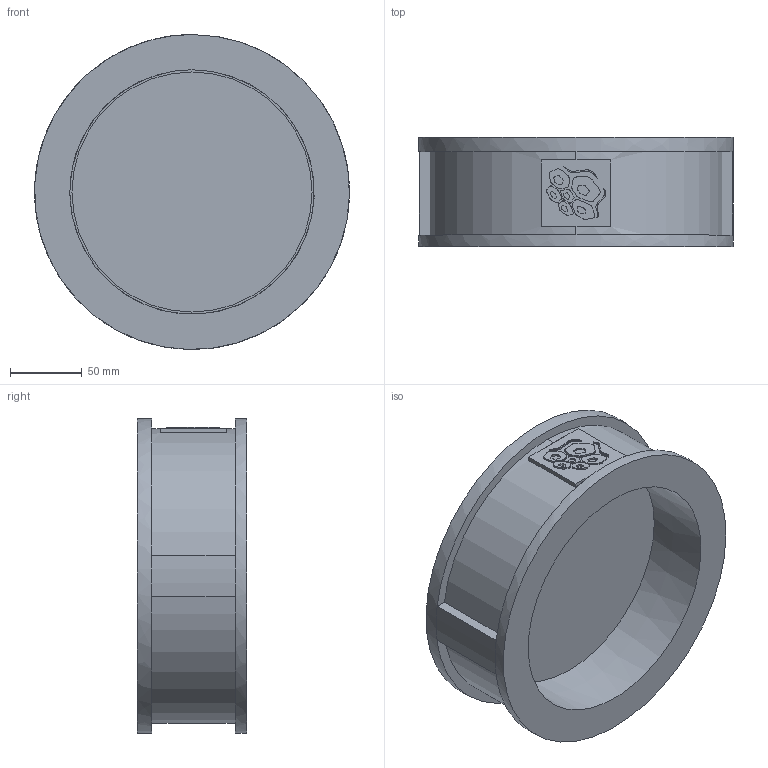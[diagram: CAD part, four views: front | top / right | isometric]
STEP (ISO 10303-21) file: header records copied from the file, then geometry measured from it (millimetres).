
FILE_DESCRIPTION(('STEP AP203'), '1');
FILE_NAME('3D_400-150-16', '', ('UNSPECIFIED'), ('UNSPECIFIED'), 'C3D Converter', 'C3D Toolkit', '');
FILE_SCHEMA(('CONFIG_CONTROL_DESIGN'));
Length unit declared in the file: millimetre
Bounding box: 219 x 76 x 219 mm (x, y, z)
Volume: 1204289.2 mm3; surface area: 197432.5 mm2
Topology: 1 solids, 1 shells, 878 faces, 2559 edges, 1699 vertices
Faces by surface type: plane 849, bspline 20, cylinder 9
Full cylindrical faces by diameter (mm): 21.254 x1, 23 x1, 57 x1, 153 x1, 155 x1, 165 x1, 167 x1
Entity records: 40052 total; most frequent: CARTESIAN_POINT 9983, ORIENTED_EDGE 5094, DIRECTION 4221, EDGE_CURVE 2547, LINE 2463, VECTOR 2463, VERTEX_POINT 1699, EDGE_LOOP 910
